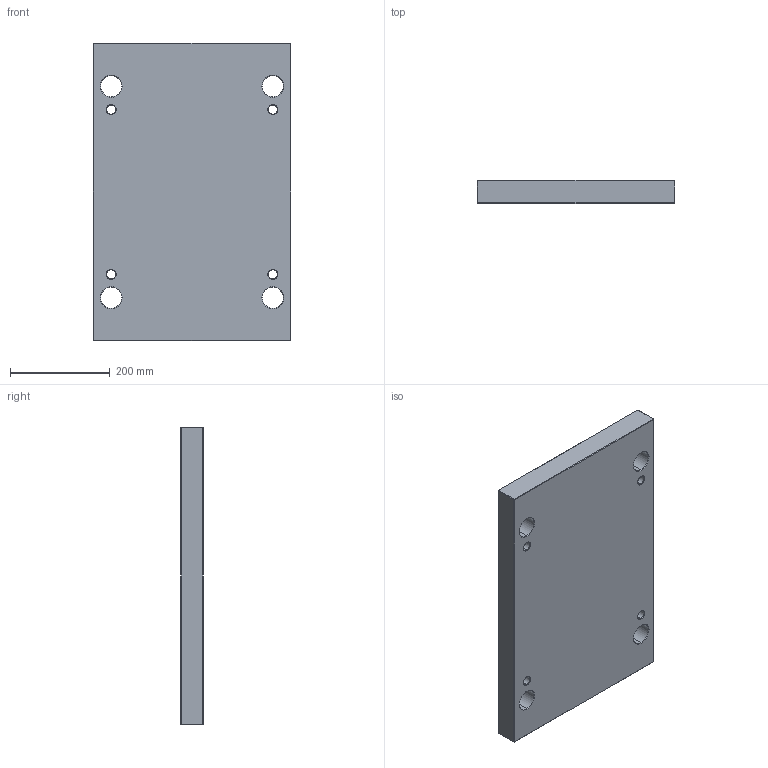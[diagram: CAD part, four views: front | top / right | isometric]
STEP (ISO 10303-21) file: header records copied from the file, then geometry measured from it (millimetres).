
FILE_DESCRIPTION (( 'STEP AP214' ), '1' );
FILE_NAME ('PBAV-EU-396x496x46.STEP', '2020-03-17T19:26:59', ( 'August' ), ( '' ), 'SwSTEP 2.0', 'SolidWorks 2018', '' );
FILE_SCHEMA (( 'AUTOMOTIVE_DESIGN' ));
Length unit declared in the file: millimetre
Products named in the file (1): PBAV-EU-396x496x46
Bounding box: 396 x 46 x 596 mm (x, y, z)
Volume: 10532195.5 mm3; surface area: 583312.8 mm2
Topology: 1 solids, 1 shells, 86 faces, 184 edges, 104 vertices
Faces by surface type: cone 32, plane 30, cylinder 24
Entity records: 2346 total; most frequent: DIRECTION 438, CARTESIAN_POINT 375, ORIENTED_EDGE 368, EDGE_CURVE 184, AXIS2_PLACEMENT_3D 167, EDGE_LOOP 106, VECTOR 104, LINE 104
